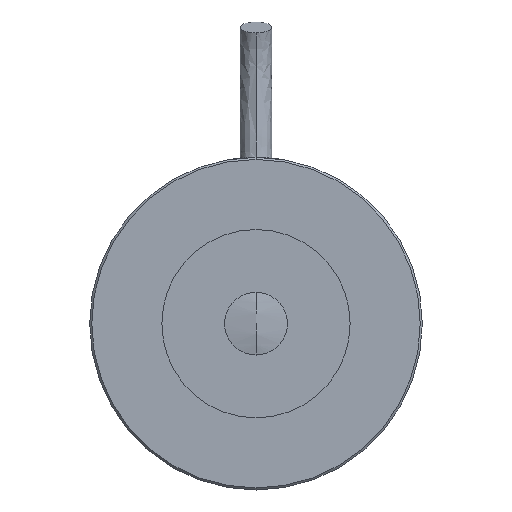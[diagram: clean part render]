
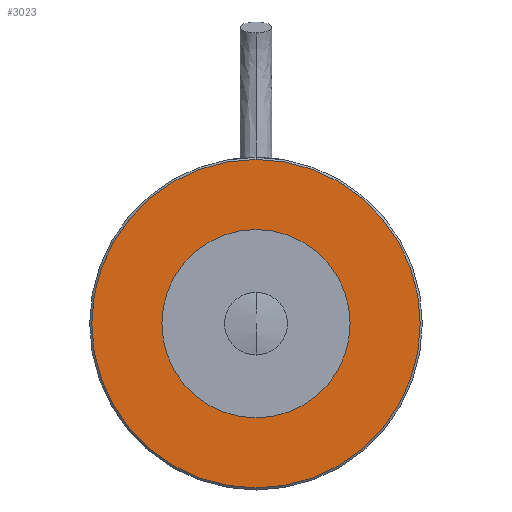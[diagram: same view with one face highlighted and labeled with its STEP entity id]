
A CAD part, left-side view. The second image highlights one B-rep face of the part: STEP entity #3023.
In plain terms, the highlighted planar face has unit normal (-1, 0, 0).
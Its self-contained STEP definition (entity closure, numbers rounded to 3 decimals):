
#252=CARTESIAN_POINT('',(-7.,0.,0.));
#253=DIRECTION('',(-1.,0.,0.));
#254=DIRECTION('',(0.,0.,1.));
#255=AXIS2_PLACEMENT_3D('',#252,#253,#254);
#257=CARTESIAN_POINT('',(-7.,0.,0.));
#258=DIRECTION('',(-1.,0.,0.));
#259=DIRECTION('',(0.,0.,-1.));
#260=AXIS2_PLACEMENT_3D('',#257,#258,#259);
#262=CARTESIAN_POINT('',(-7.,0.,0.));
#263=DIRECTION('',(1.,0.,0.));
#264=DIRECTION('',(0.,0.,-1.));
#265=AXIS2_PLACEMENT_3D('',#262,#263,#264);
#275=CARTESIAN_POINT('',(-7.,0.,0.));
#276=DIRECTION('',(-1.,0.,0.));
#277=DIRECTION('',(0.,0.,-1.));
#278=AXIS2_PLACEMENT_3D('',#275,#276,#277);
#2380=CARTESIAN_POINT('',(-7.,0.,-9.));
#2382=VERTEX_POINT('',#2380);
#2394=CARTESIAN_POINT('',(-7.,0.,9.));
#2396=VERTEX_POINT('',#2394);
#2418=CARTESIAN_POINT('',(-7.,0.,15.7));
#2419=CARTESIAN_POINT('',(-7.,0.,-15.7));
#2420=VERTEX_POINT('',#2418);
#2421=VERTEX_POINT('',#2419);
#3007=CARTESIAN_POINT('',(-7.,0.,0.));
#3008=DIRECTION('',(1.,0.,0.));
#3009=DIRECTION('',(0.,0.,1.));
#3010=AXIS2_PLACEMENT_3D('',#3007,#3008,#3009);
#3011=PLANE('',#3010);
#3013=ORIENTED_EDGE('',*,*,#3012,.F.);
#3014=ORIENTED_EDGE('',*,*,#2997,.F.);
#3015=EDGE_LOOP('',(#3013,#3014));
#3016=FACE_OUTER_BOUND('',#3015,.F.);
#3018=ORIENTED_EDGE('',*,*,#3017,.F.);
#3020=ORIENTED_EDGE('',*,*,#3019,.T.);
#3021=EDGE_LOOP('',(#3018,#3020));
#3022=FACE_BOUND('',#3021,.F.);
#256=CIRCLE('',#255,15.7);
#261=CIRCLE('',#260,15.7);
#266=CIRCLE('',#265,9.);
#279=CIRCLE('',#278,9.);
#2997=EDGE_CURVE('',#2421,#2420,#261,.T.);
#3012=EDGE_CURVE('',#2420,#2421,#256,.T.);
#3017=EDGE_CURVE('',#2382,#2396,#266,.T.);
#3019=EDGE_CURVE('',#2382,#2396,#279,.T.);
#3023=ADVANCED_FACE('',(#3016,#3022),#3011,.F.);
